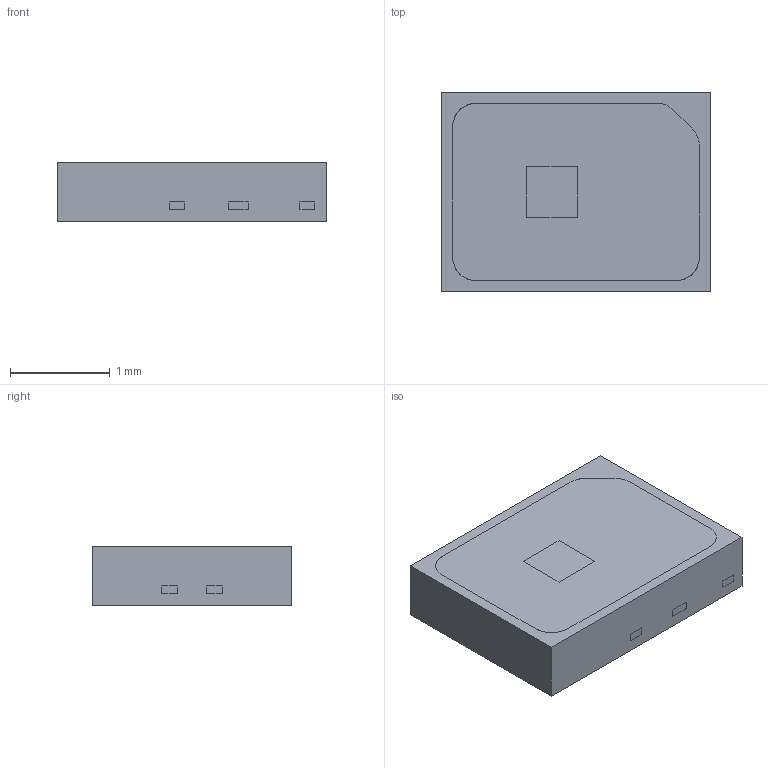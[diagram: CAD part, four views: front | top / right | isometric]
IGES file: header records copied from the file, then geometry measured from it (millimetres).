
Start section: SolidWorks IGES file using analytic representation for surfaces
Global section: file name: C:\Users\user\Desktop\XYY\1-车灯产品3D图汇总\EMC2720\LYJ-OK\光学模型\LYJ.IGS; native system: SolidWorks 2022; preprocessor: SolidWorks 2022; author: user; date: 250411.112457; units: millimetre
Bounding box: 2.7 x 2 x 0.6 mm (x, y, z)
Surface area: 31.8 mm2 (no closed solid volume)
Topology: 0 solids, 0 shells, 169 faces, 1837 edges, 2332 vertices
Faces by surface type: bspline 103, revolution 66
